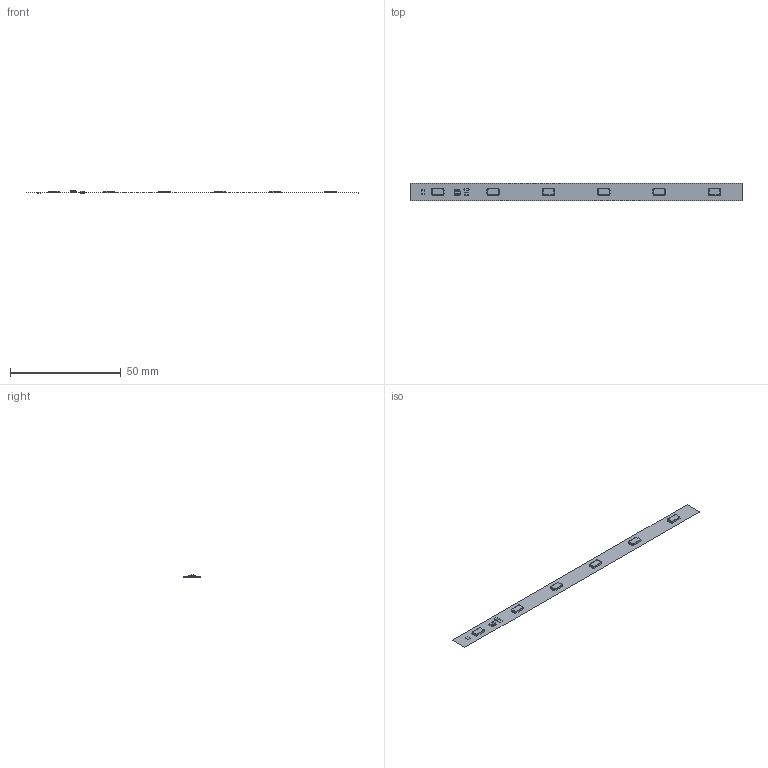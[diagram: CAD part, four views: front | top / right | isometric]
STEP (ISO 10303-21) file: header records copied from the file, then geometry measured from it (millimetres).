
FILE_DESCRIPTION(('STEP AP214'),'1');
FILE_NAME('ILX-E525_Step.stp','2016-10-21T14:45:55',(' '),(' '),'Spatial InterOp 3D',' ',' ');
FILE_SCHEMA(('automotive_design'));
Length unit declared in the file: millimetre
Products named in the file (8): ILX-E525_Step; ILX-E525; LxW_JDSx_120613_geometry; SW3dPS-SOT23-6-1; 27677; Component1; Component2; Component3
Assembly tree (12 placements, depth 3):
  ILX-E525_Step
    ILX-E525
    LxW_JDSx_120613_geometry  x6
    SW3dPS-SOT23-6-1
    27677
      Component1
      Component2
      Component3
Bounding box: 150 x 8 x 1.34 mm (x, y, z)
Volume: 79.1 mm3; surface area: 1517.3 mm2
Topology: 12 solids, 14 shells, 804 faces, 2180 edges, 1438 vertices
Faces by surface type: plane 564, cylinder 240
Entity records: 10767 total; most frequent: CARTESIAN_POINT 1445, ORIENTED_EDGE 1372, DIRECTION 1340, EDGE_CURVE 690, LINE 570, VECTOR 570, VERTEX_POINT 452, AXIS2_PLACEMENT_3D 385
